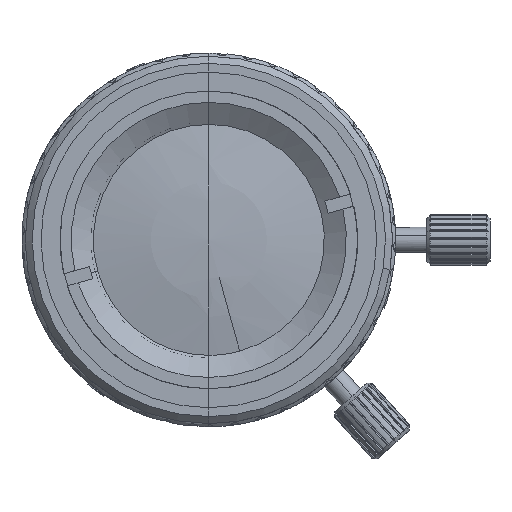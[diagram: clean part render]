
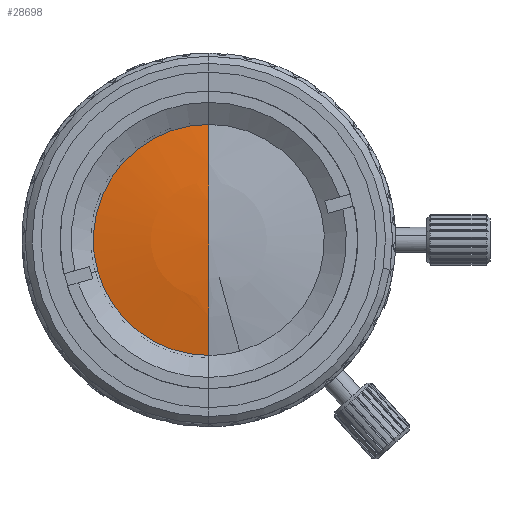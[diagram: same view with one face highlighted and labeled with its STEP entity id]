
A CAD part, left-side view. The second image highlights one B-rep face of the part: STEP entity #28698.
In plain terms, the highlighted spherical face has radius 49.38 mm.
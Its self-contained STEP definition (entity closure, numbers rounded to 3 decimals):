
#571 = DIRECTION ( 'NONE',  ( 0., -1., 0. ) ) ;
#1779 = CARTESIAN_POINT ( 'NONE',  ( 32.167, 4.797, 48.403 ) ) ;
#2286 = EDGE_CURVE ( 'NONE', #19363, #7648, #14300, .T. ) ;
#2633 = SPHERICAL_SURFACE ( 'NONE', #12571, 49.38 ) ;
#2849 = DIRECTION ( 'NONE',  ( -1., 0., 0. ) ) ;
#4649 = ORIENTED_EDGE ( 'NONE', *, *, #29258, .T. ) ;
#5490 = DIRECTION ( 'NONE',  ( 0., 1., 0. ) ) ;
#5877 = FACE_OUTER_BOUND ( 'NONE', #24028, .T. ) ;
#7077 = AXIS2_PLACEMENT_3D ( 'NONE', #35371, #36278, #571 ) ;
#7648 = VERTEX_POINT ( 'NONE', #29455 ) ;
#10792 = CIRCLE ( 'NONE', #7077, 9.116 ) ;
#11695 = EDGE_CURVE ( 'NONE', #7648, #33538, #10792, .T. ) ;
#12571 = AXIS2_PLACEMENT_3D ( 'NONE', #34414, #2849, #41612 ) ;
#12752 = DIRECTION ( 'NONE',  ( -1., 0., 0. ) ) ;
#12941 = CARTESIAN_POINT ( 'NONE',  ( -16.364, 4.797, 39.288 ) ) ;
#13932 = ORIENTED_EDGE ( 'NONE', *, *, #11695, .T. ) ;
#14034 = AXIS2_PLACEMENT_3D ( 'NONE', #1779, #5490, #33792 ) ;
#14300 = CIRCLE ( 'NONE', #45353, 9.116 ) ;
#19363 = VERTEX_POINT ( 'NONE', #20963 ) ;
#20963 = CARTESIAN_POINT ( 'NONE',  ( -16.364, 4.797, 57.519 ) ) ;
#24028 = EDGE_LOOP ( 'NONE', ( #36413, #13932, #4649 ) ) ;
#27842 = DIRECTION ( 'NONE',  ( 0., -1., 0. ) ) ;
#28698 = ADVANCED_FACE ( 'NONE', ( #5877 ), #2633, .T. ) ;
#29258 = EDGE_CURVE ( 'NONE', #33538, #19363, #33322, .T. ) ;
#29455 = CARTESIAN_POINT ( 'NONE',  ( -16.364, 13.579, 45.958 ) ) ;
#30405 = CARTESIAN_POINT ( 'NONE',  ( -16.364, 4.797, 48.403 ) ) ;
#33322 = CIRCLE ( 'NONE', #14034, 49.38 ) ;
#33538 = VERTEX_POINT ( 'NONE', #12941 ) ;
#33792 = DIRECTION ( 'NONE',  ( 0., 0., 1. ) ) ;
#34414 = CARTESIAN_POINT ( 'NONE',  ( 32.167, 4.797, 48.403 ) ) ;
#35371 = CARTESIAN_POINT ( 'NONE',  ( -16.364, 4.797, 48.403 ) ) ;
#36278 = DIRECTION ( 'NONE',  ( -1., 0., 0. ) ) ;
#36413 = ORIENTED_EDGE ( 'NONE', *, *, #2286, .T. ) ;
#41612 = DIRECTION ( 'NONE',  ( 0., -0.268, -0.963 ) ) ;
#45353 = AXIS2_PLACEMENT_3D ( 'NONE', #30405, #12752, #27842 ) ;
